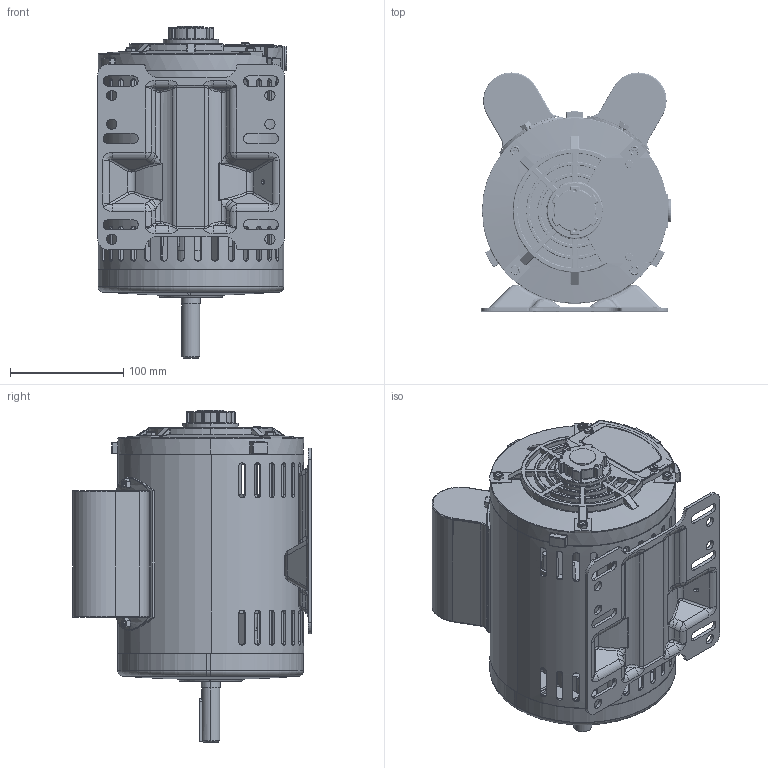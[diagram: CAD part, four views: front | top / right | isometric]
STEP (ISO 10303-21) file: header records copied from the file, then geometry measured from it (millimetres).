
FILE_DESCRIPTION (( 'STEP AP203' ), '1' );
FILE_NAME ('175.STEP', '2025-03-04T02:05:21', ( 'User' ), ( 'China' ), 'SwSTEP 2.0', 'SolidWorks 2019', '' );
FILE_SCHEMA (( 'CONFIG_CONTROL_DESIGN' ));
Length unit declared in the file: millimetre
Products named in the file (6): 175儂褲; OPE 1.5-18-56（220）; 菁褐; ヶ裔; 175lg; 175
Assembly tree (8 placements, depth 2):
  175
    175儂褲
    OPE 1.5-18-56（220）
    菁褐
    ヶ裔
    175lg  x4
Bounding box: 167 x 210.87 x 293.15 mm (x, y, z)
Volume: 1572044.7 mm3; surface area: 705997.1 mm2
Topology: 31 solids, 31 shells, 3318 faces, 8738 edges, 5506 vertices
Faces by surface type: cylinder 1386, plane 1085, torus 286, bspline 285, cone 210, sphere 66
Entity records: 118917 total; most frequent: CARTESIAN_POINT 47393, ORIENTED_EDGE 15470, DIRECTION 14110, EDGE_CURVE 7735, AXIS2_PLACEMENT_3D 5337, VERTEX_POINT 4881, LINE 3436, VECTOR 3436
